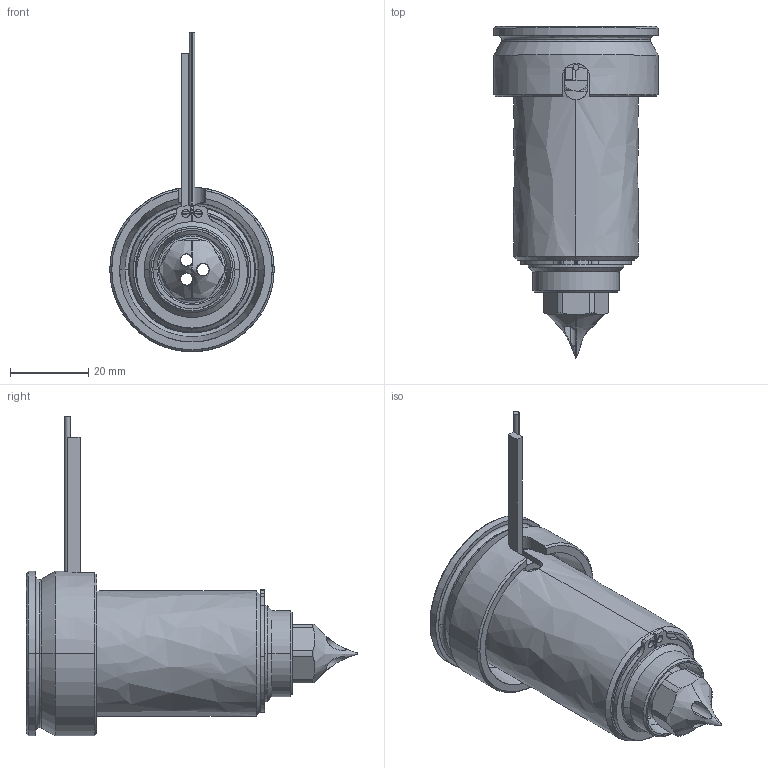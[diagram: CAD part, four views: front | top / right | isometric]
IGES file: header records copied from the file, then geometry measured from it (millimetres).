
Start section: SolidWorks IGES file using analytic representation for surfaces
Global section: file name: C:\Users\luca.EMPAD\Desktop\TEM\UGDL3612-S-A-1 [Øf=0.3 ØC=10].IGS; native system: SolidWorks 2012; preprocessor: SolidWorks 2012; author: luca; date: 120330.160419; units: millimetre
Bounding box: 42 x 84.8 x 81.65 mm (x, y, z)
Surface area: 27091.7 mm2 (no closed solid volume)
Topology: 0 solids, 0 shells, 129 faces, 2256 edges, 2256 vertices
Faces by surface type: revolution 81, bspline 48
